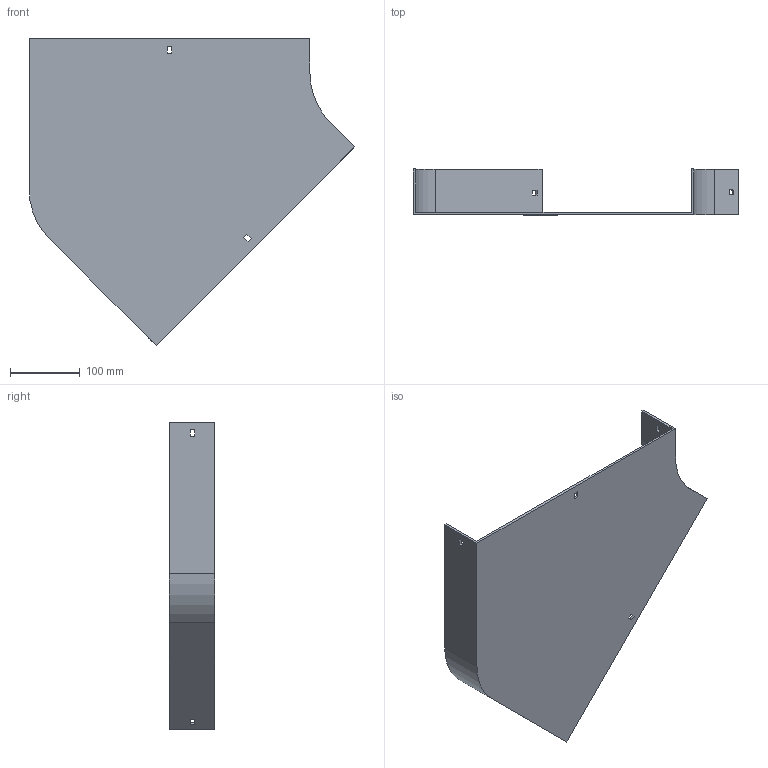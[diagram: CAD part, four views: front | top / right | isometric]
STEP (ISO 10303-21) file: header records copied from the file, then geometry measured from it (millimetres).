
FILE_DESCRIPTION (( 'STEP AP214' ), '1' );
FILE_NAME ('11B1H400.step', '2025-02-21T09:38:18', ( '' ), ( '' ), 'SwSTEP 2.0', 'SolidWorks 2023', '' );
FILE_SCHEMA (( 'AUTOMOTIVE_DESIGN' ));
Length unit declared in the file: millimetre
Products named in the file (1): 11B1H400
Bounding box: 468.64 x 65.5 x 441.74 mm (x, y, z)
Volume: 643884.9 mm3; surface area: 374744.4 mm2
Topology: 1 solids, 1 shells, 42 faces, 120 edges, 80 vertices
Faces by surface type: plane 38, cylinder 4
Entity records: 1399 total; most frequent: CARTESIAN_POINT 243, ORIENTED_EDGE 240, DIRECTION 214, EDGE_CURVE 120, LINE 112, VECTOR 112, VERTEX_POINT 80, EDGE_LOOP 54
